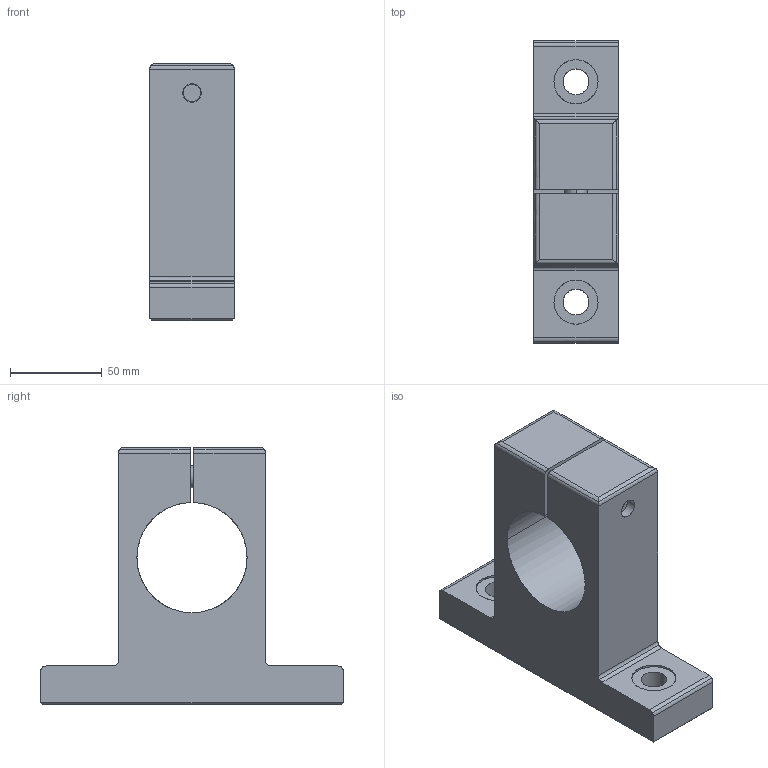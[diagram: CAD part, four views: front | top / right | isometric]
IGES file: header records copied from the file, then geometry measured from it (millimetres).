
Global section: file name: No Iges File Name specified; native system: AutoDesk Inventor R10; preprocessor: AutoDesk Inventor Iges Exporter R10; author: No Author specified; organization: No Organization specified; date: 20101214.152801; units: millimetre
Bounding box: 46 x 165 x 140 mm (x, y, z)
Surface area: 63901.2 mm2 (no closed solid volume)
Topology: 0 solids, 0 shells, 76 faces, 460 edges, 458 vertices
Faces by surface type: bspline 76
